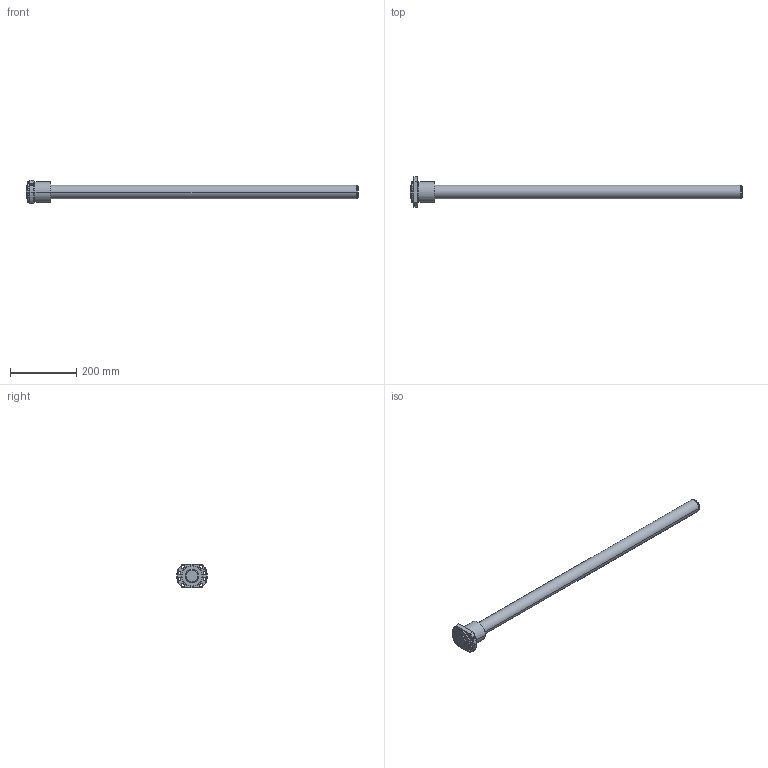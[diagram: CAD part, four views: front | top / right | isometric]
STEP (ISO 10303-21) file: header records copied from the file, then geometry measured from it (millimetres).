
FILE_DESCRIPTION( ( '' ), '1' );
FILE_NAME( 'C:/Users/v3-771-32344/Desktop/EBB STEP/EBB 4005-6 RRNone+1000L C7(920070)-ebb3.stp', '2015-08-27T13:39:20', ( '' ), ( '' ), ' ', ' ', ' ' );
FILE_SCHEMA( ( 'CONFIG_CONTROL_DESIGN' ) );
Length unit declared in the file: millimetre
Products named in the file (2): 1; 2
Bounding box: 1000 x 93 x 70 mm (x, y, z)
Volume: 1414427.7 mm3; surface area: 165397.2 mm2
Topology: 2 solids, 2 shells, 71 faces, 167 edges, 107 vertices
Faces by surface type: cylinder 40, cone 18, plane 13
Entity records: 2315 total; most frequent: CARTESIAN_POINT 497, DIRECTION 394, ORIENTED_EDGE 334, AXIS2_PLACEMENT_3D 167, EDGE_CURVE 167, VERTEX_POINT 107, EDGE_LOOP 98, CIRCLE 94
